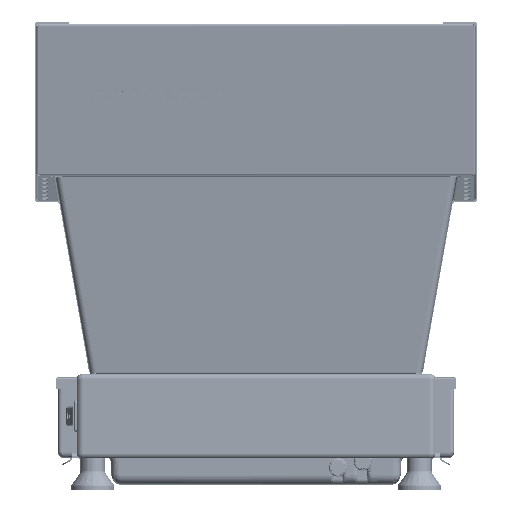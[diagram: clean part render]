
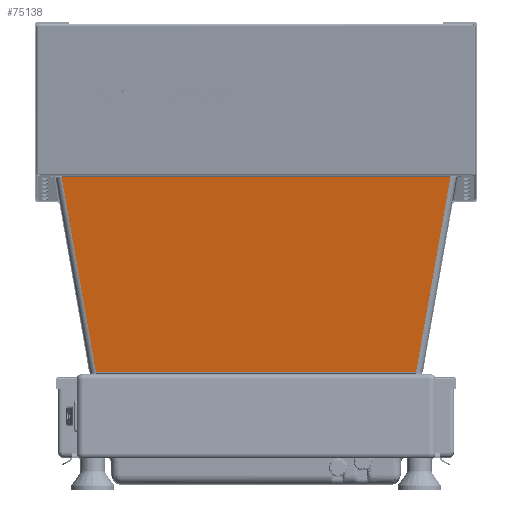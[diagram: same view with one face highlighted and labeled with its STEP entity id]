
A CAD part, top view. The second image highlights one B-rep face of the part: STEP entity #75138.
In plain terms, the highlighted planar face has unit normal (0, -0.139, 0.99) as drawn and (0, -0.139, -0.99) by its records, which use the part's own axes.
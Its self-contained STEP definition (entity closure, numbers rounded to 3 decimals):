
#1854 = VECTOR ( 'NONE', #313977, 1000. ) ;
#7720 = EDGE_CURVE ( 'NONE', #345504, #297339, #8629, .T. ) ;
#8629 = LINE ( 'NONE', #362712, #114791 ) ;
#15235 = DIRECTION ( 'NONE',  ( -0.172, 0.976, -0.137 ) ) ;
#16025 = VECTOR ( 'NONE', #205664, 1000. ) ;
#16376 = CARTESIAN_POINT ( 'NONE',  ( 157.098, 158.433, -22.266 ) ) ;
#22136 = LINE ( 'NONE', #225402, #87255 ) ;
#22867 = VERTEX_POINT ( 'NONE', #315899 ) ;
#60164 = VERTEX_POINT ( 'NONE', #279993 ) ;
#60313 = CARTESIAN_POINT ( 'NONE',  ( -129.176, 0., 0. ) ) ;
#65473 = EDGE_CURVE ( 'NONE', #321032, #297339, #253221, .T. ) ;
#68746 = DIRECTION ( 'NONE',  ( 0., 0.99, -0.139 ) ) ;
#75138 = ADVANCED_FACE ( 'NONE', ( #101626 ), #219695, .T. ) ;
#75954 = LINE ( 'NONE', #284992, #1854 ) ;
#87255 = VECTOR ( 'NONE', #252521, 1000. ) ;
#88945 = EDGE_CURVE ( 'NONE', #345504, #60164, #75954, .T. ) ;
#101626 = FACE_OUTER_BOUND ( 'NONE', #227858, .T. ) ;
#114791 = VECTOR ( 'NONE', #355107, 1000. ) ;
#128598 = ORIENTED_EDGE ( 'NONE', *, *, #88945, .T. ) ;
#165362 = ORIENTED_EDGE ( 'NONE', *, *, #7720, .F. ) ;
#174678 = ORIENTED_EDGE ( 'NONE', *, *, #216021, .T. ) ;
#175877 = VECTOR ( 'NONE', #246447, 1000. ) ;
#176655 = LINE ( 'NONE', #265688, #16025 ) ;
#182216 = EDGE_CURVE ( 'NONE', #22867, #269414, #304462, .T. ) ;
#199628 = CARTESIAN_POINT ( 'NONE',  ( -157.098, 158.433, -22.266 ) ) ;
#205664 = DIRECTION ( 'NONE',  ( 0., 0.99, -0.139 ) ) ;
#212118 = ORIENTED_EDGE ( 'NONE', *, *, #65473, .T. ) ;
#216021 = EDGE_CURVE ( 'NONE', #60164, #22867, #176655, .T. ) ;
#219695 = PLANE ( 'NONE',  #340529 ) ;
#225402 = CARTESIAN_POINT ( 'NONE',  ( -129.176, 0., 0. ) ) ;
#227858 = EDGE_LOOP ( 'NONE', ( #128598, #174678, #329768, #315330, #212118, #165362 ) ) ;
#246447 = DIRECTION ( 'NONE',  ( -1., 0., 0. ) ) ;
#252521 = DIRECTION ( 'NONE',  ( 0., -0.99, 0.139 ) ) ;
#253221 = LINE ( 'NONE', #371275, #366322 ) ;
#265688 = CARTESIAN_POINT ( 'NONE',  ( 129.176, 0., 0. ) ) ;
#269414 = VERTEX_POINT ( 'NONE', #371170 ) ;
#277412 = CARTESIAN_POINT ( 'NONE',  ( 129.176, 0.689, -0.097 ) ) ;
#279993 = CARTESIAN_POINT ( 'NONE',  ( 129.176, 0., 0. ) ) ;
#284992 = CARTESIAN_POINT ( 'NONE',  ( 125.357, -21.665, 3.045 ) ) ;
#297339 = VERTEX_POINT ( 'NONE', #199628 ) ;
#298841 = EDGE_CURVE ( 'NONE', #269414, #321032, #22136, .T. ) ;
#304462 = LINE ( 'NONE', #277412, #175877 ) ;
#313977 = DIRECTION ( 'NONE',  ( -0.172, -0.976, 0.137 ) ) ;
#315330 = ORIENTED_EDGE ( 'NONE', *, *, #298841, .T. ) ;
#315899 = CARTESIAN_POINT ( 'NONE',  ( 129.176, 0.689, -0.097 ) ) ;
#321032 = VERTEX_POINT ( 'NONE', #60313 ) ;
#329768 = ORIENTED_EDGE ( 'NONE', *, *, #182216, .T. ) ;
#337704 = DIRECTION ( 'NONE',  ( 0., -0.139, -0.99 ) ) ;
#340529 = AXIS2_PLACEMENT_3D ( 'NONE', #362976, #337704, #68746 ) ;
#345504 = VERTEX_POINT ( 'NONE', #16376 ) ;
#355107 = DIRECTION ( 'NONE',  ( -1., 0., 0. ) ) ;
#362712 = CARTESIAN_POINT ( 'NONE',  ( 0., 158.433, -22.266 ) ) ;
#362976 = CARTESIAN_POINT ( 'NONE',  ( 0., 0., 0. ) ) ;
#366322 = VECTOR ( 'NONE', #15235, 1000. ) ;
#371170 = CARTESIAN_POINT ( 'NONE',  ( -129.176, 0.689, -0.097 ) ) ;
#371275 = CARTESIAN_POINT ( 'NONE',  ( -125.357, -21.665, 3.045 ) ) ;
